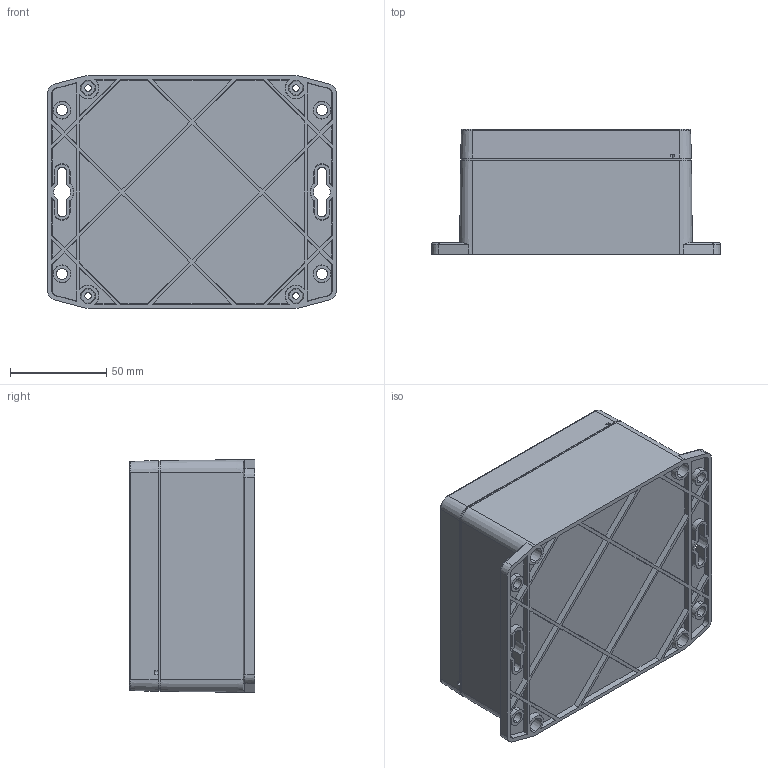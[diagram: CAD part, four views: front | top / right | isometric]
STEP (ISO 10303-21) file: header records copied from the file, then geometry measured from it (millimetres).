
FILE_DESCRIPTION (( 'STEP AP203' ), '1' );
FILE_NAME ('PF231.STEP', '2021-07-08T08:25:19', ( '' ), ( '' ), 'SwSTEP 2.0', 'SolidWorks 2021', '' );
FILE_SCHEMA (( 'CONFIG_CONTROL_DESIGN' ));
Length unit declared in the file: millimetre
Products named in the file (3): PF231
Assembly tree (2 placements, depth 2):
  PF231
    PF231
    PF231
Bounding box: 150 x 65 x 120.87 mm (x, y, z)
Volume: 209081.1 mm3; surface area: 140421 mm2
Topology: 2 solids, 2 shells, 637 faces, 1600 edges, 1060 vertices
Faces by surface type: plane 339, cone 180, cylinder 110, torus 8
Entity records: 19659 total; most frequent: CARTESIAN_POINT 3474, DIRECTION 3428, ORIENTED_EDGE 3200, EDGE_CURVE 1600, AXIS2_PLACEMENT_3D 1234, VERTEX_POINT 1060, LINE 960, VECTOR 960
